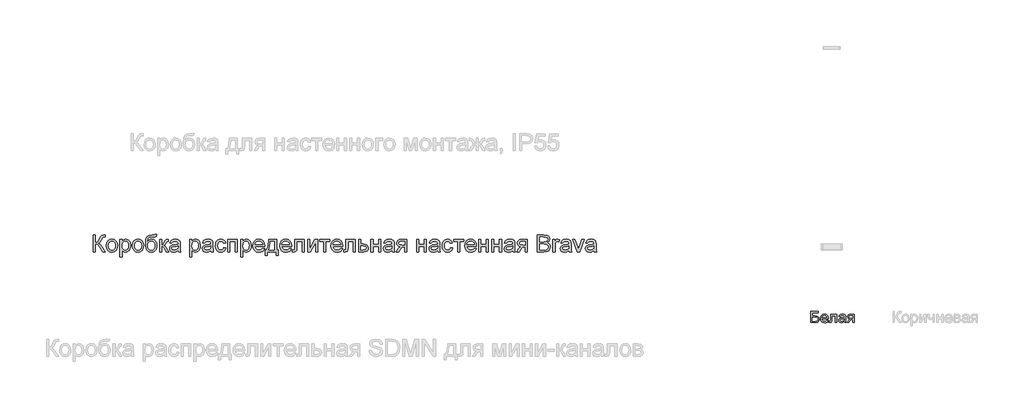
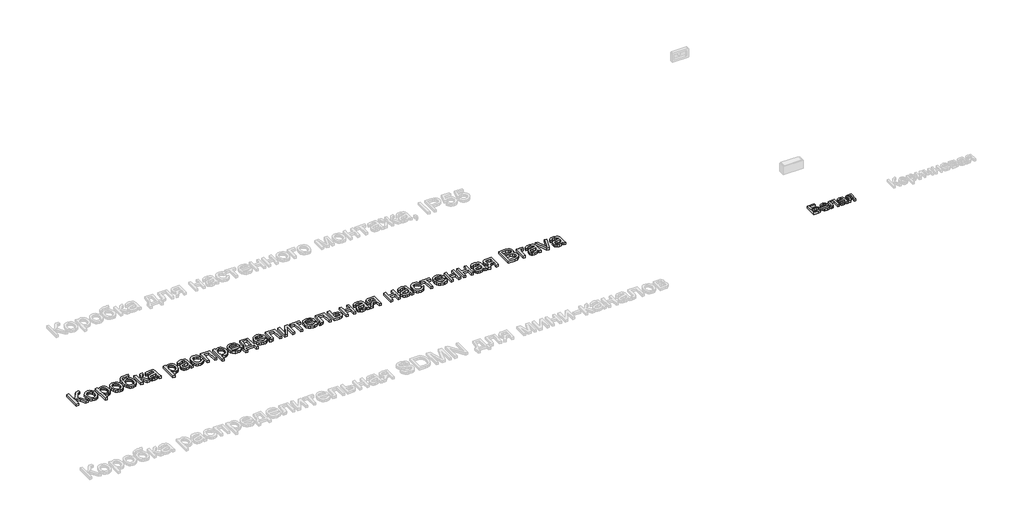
# One storey, part 15 of 48: 2 proxies.
"""IFC4 building model written with IfcOpenShell, lengths in millimetres."""

from ifc_helpers import new_model, si_unit, origin, origin_with_axes, place, context, project, spatial, polyline, outline, extrude, element, save

model = new_model("IFC4")

# Units and contexts
model_context = context("Model", 3, world=origin())
ifc_project = project(units=[si_unit("LENGTHUNIT", "METRE", prefix="MILLI")], contexts=[model_context])

# Site, building, storey
site = spatial("IfcSite", under=ifc_project)
building = spatial("IfcBuilding", under=site)
storey = spatial("IfcBuildingStorey", under=building, Name="Этаж 01", Elevation=0.0)

# Proxies
placement = place(None, origin())
element("IfcBuildingElementProxy", 1, Name="150 мм Arial", ObjectType="150 мм Arial", at=placement, inside=storey, context=model_context, shape_type="SweptSolid", body=[
    extrude(outline(polyline([(38092.7858032, -318.1215641), (38111.6213614, -318.1215641), (38111.6213614, -384.0460176), (38124.3730711, -382.7998174), (38132.6826056, -379.0612166), (38147.3794913, -353.8429058), (38157.7721577, -332.7816616), (38169.5443815, -322.352207), (38186.3749828, -318.1215641), (38198.7358179, -318.3422933), (38198.7358179, -337.1778514), (38194.5787513, -337.0674868), (38190.4216848, -336.9571222), (38175.706405, -341.4820708), (38164.5227923, -360.8694519), (38151.18707, -384.487476), (38138.1824415, -392.2865743), (38152.7229773, -400.8030425), (38167.0611781, -418.5533488), (38198.7358179, -468.8060293), (38176.8836273, -468.8060293), (38150.1018181, -426.3524471), (38131.2478658, -404.1875569), (38122.5428581, -399.6764039), (38111.6213614, -398.1726862), (38111.6213614, -468.8060293), (38092.7858032, -468.8060293), (38092.7858032, -318.1215641)])), origin_with_axes(), (0.0, 0.0, 1.0), 20.0),
    extrude(outline(polyline([(38208.1535969, -413.4765772), (38212.22789, -386.7959355), (38224.4507693, -368.0431508), (38239.5523252, -358.855298), (38257.6337253, -355.7926804), (38277.4211781, -359.5220841), (38293.2263083, -370.7102953), (38303.586785, -388.4743971), (38307.0402772, -411.9314729), (38305.513567, -430.9601691), (38300.9334361, -445.4455226), (38293.4332419, -456.2934429), (38283.1463417, -464.4098395), (38270.9280609, -469.4728154), (38257.6337253, -471.1604741), (38237.6071492, -467.4448659), (38221.8204131, -456.2980415), (38211.570301, -438.1614591), (38208.1535969, -413.4765772)]), holes=[polyline([(38226.9891551, -413.439789), (38229.1688559, -430.486521), (38235.7079584, -442.6312253), (38245.5488017, -449.9014933), (38257.6337253, -452.3249159), (38269.6634665, -449.8876977), (38279.4859158, -442.5760431), (38286.0250183, -430.2703903), (38288.2047191, -412.8511778), (38286.0112227, -396.3010866), (38279.4307335, -384.3219291), (38269.5944887, -377.0516612), (38257.6337253, -374.6282385), (38245.5488017, -377.0424641), (38235.7079584, -384.2851409), (38229.1688559, -396.4022541), (38226.9891551, -413.439789)])]), origin_with_axes(), (0.0, 0.0, 1.0), 20.0),
    extrude(outline(polyline([(38328.2302802, -511.1860352), (38328.2302802, -358.1471252), (38347.0658383, -358.1471252), (38347.0658383, -376.6148013), (38360.0888609, -360.9982106), (38377.6736203, -355.7926804), (38390.4115344, -357.6136963), (38401.5491618, -363.0767439), (38410.617453, -371.8507295), (38417.1473584, -383.6045592), (38422.4080709, -412.6304486), (38420.9227474, -428.7390815), (38416.4667767, -443.1462601), (38409.1827132, -455.1208191), (38399.2131111, -463.9315929), (38387.6018357, -469.3532538), (38375.3927519, -471.1604741), (38359.0036091, -466.3228258), (38347.0658383, -454.0907495), (38347.0658383, -511.1860352), (38328.2302802, -511.1860352)]), holes=[polyline([(38347.0658383, -414.359494), (38349.1029849, -431.2452776), (38355.2144245, -443.0542896), (38364.2321319, -450.0072594), (38374.9880818, -452.3249159), (38385.9187755, -449.9244859), (38395.1664092, -442.7231958), (38401.4709869, -430.4819225), (38403.5725128, -412.9615424), (38401.5215707, -396.1677294), (38395.3687443, -384.1931704), (38386.3648325, -377.0194715), (38375.7606339, -374.6282385), (38365.1150487, -377.1712228), (38355.7662475, -384.8001757), (38349.2409406, -397.2759739), (38347.0658383, -414.359494)])]), origin_with_axes(), (0.0, 0.0, 1.0), 20.0),
    extrude(outline(polyline([(38438.8891843, -413.4765772), (38442.9634774, -386.7959355), (38455.1863567, -368.0431508), (38470.2879126, -358.855298), (38488.3693127, -355.7926804), (38508.1567655, -359.5220841), (38523.9618957, -370.7102953), (38534.3223724, -388.4743971), (38537.7758646, -411.9314729), (38536.2491543, -430.9601691), (38531.6690235, -445.4455226), (38524.1688293, -456.2934429), (38513.881929, -464.4098395), (38501.6636483, -469.4728154), (38488.3693127, -471.1604741), (38468.3427366, -467.4448659), (38452.5560004, -456.2980415), (38442.3058883, -438.1614591), (38438.8891843, -413.4765772)]), holes=[polyline([(38457.7247425, -413.439789), (38459.9044433, -430.486521), (38466.4435458, -442.6312253), (38476.2843891, -449.9014933), (38488.3693127, -452.3249159), (38500.3990539, -449.8876977), (38510.2215032, -442.5760431), (38516.7606056, -430.2703903), (38518.9403065, -412.8511778), (38516.7468101, -396.3010866), (38510.1663209, -384.3219291), (38500.330076, -377.0516612), (38488.3693127, -374.6282385), (38476.2843891, -377.0424641), (38466.4435458, -384.2851409), (38459.9044433, -396.4022541), (38457.7247425, -413.439789)])]), origin_with_axes(), (0.0, 0.0, 1.0), 20.0),
    extrude(outline(polyline([(38636.6625449, -315.7671193), (38653.1436583, -315.7671193), (38648.287616, -330.464005), (38638.6858959, -335.7798999), (38615.6196948, -336.9571222), (38584.5520603, -341.2981298), (38577.4243466, -346.9451184), (38572.6326837, -355.2040692), (38568.6043758, -379.8153747), (38584.9199423, -361.7891569), (38594.8389606, -357.2917995), (38605.9443983, -355.7926804), (38625.5433116, -359.6048576), (38641.4450109, -371.0413891), (38651.98483, -388.9802349), (38655.4981031, -412.2993548), (38653.7552621, -430.2795874), (38648.5267393, -444.7097586), (38631.9904436, -464.2626867), (38620.6964663, -469.4360272), (38605.9443983, -471.1604741), (38588.9436516, -468.9393865), (38576.201139, -462.2761239), (38566.8247467, -452.150172), (38559.9223607, -439.5410166), (38555.6733237, -420.5537071), (38554.256978, -391.2932929), (38557.8300319, -355.1534854), (38568.5491935, -333.1127554), (38586.6811773, -321.8693619), (38612.4926978, -318.1215641), (38633.4619716, -317.6984998), (38636.6625449, -315.7671193)]), holes=[polyline([(38636.6625449, -411.7107437), (38634.6207998, -396.8896978), (38628.4955646, -385.0209049), (38618.6547213, -377.2264051), (38605.4661517, -374.6282385), (38591.7165622, -377.3735579), (38581.5170338, -385.6095161), (38575.1986606, -398.4348022), (38573.0925362, -414.9481052), (38575.4193898, -430.9555705), (38582.3999506, -442.7048017), (38592.792617, -449.9198874), (38605.3557871, -452.3249159), (38617.9833366, -449.5428083), (38627.9805298, -441.1964856), (38634.4920411, -428.2608349), (38636.6625449, -411.7107437)])]), origin_with_axes(), (0.0, 0.0, 1.0), 20.0),
    extrude(outline(polyline([(38679.0425508, -358.1471252), (38697.8781089, -358.1471252), (38697.8781089, -405.2360205), (38710.4964614, -401.8515062), (38720.8339454, -382.1330312), (38729.42399, -365.118489), (38737.0023591, -359.5818649), (38750.7795398, -358.1471252), (38754.3847834, -358.1471252), (38754.3847834, -377.0930479), (38749.3080118, -376.9826833), (38740.110962, -378.9692461), (38733.6362388, -391.3668693), (38726.0394756, -404.776168), (38715.3892919, -411.3428617), (38727.2718803, -418.6729104), (38738.9337396, -434.1147572), (38759.0936729, -468.8060293), (38737.6829408, -468.8060293), (38717.9276777, -434.8505212), (38707.9948638, -420.4847292), (38697.8781089, -417.0082444), (38697.8781089, -468.8060293), (38679.0425508, -468.8060293), (38679.0425508, -358.1471252)])), origin_with_axes(), (0.0, 0.0, 1.0), 20.0),
    extrude(outline(polyline([(38841.4992398, -454.6793607), (38823.2338988, -467.4448659), (38803.0555713, -471.1604741), (38787.3148205, -468.925591), (38775.703545, -462.2209416), (38768.5436417, -452.0398074), (38766.1570072, -439.3754697), (38769.7622508, -424.4762489), (38779.2352122, -413.6605182), (38792.4237817, -407.4801007), (38808.7209541, -404.6474093), (38841.3888752, -398.1726862), (38841.4992398, -393.9788315), (38840.2024558, -385.5727279), (38836.3121037, -380.0728921), (38827.6116945, -375.9894019), (38815.4899828, -374.6282385), (38796.4336954, -378.2518762), (38787.3470101, -391.1093519), (38768.511452, -388.7549072), (38776.6600382, -370.3608074), (38793.0675752, -359.5818649), (38817.9180039, -355.7926804), (38840.7450817, -359.1404065), (38853.6393457, -367.5465101), (38859.415093, -380.3304095), (38860.334798, -396.8115229), (38860.334798, -420.2456059), (38861.2912912, -452.9687094), (38865.0436875, -468.8060293), (38846.2081294, -468.8060293), (38841.4992398, -454.6793607)]), holes=[polyline([(38841.4992398, -417.0082444), (38811.112187, -422.7839917), (38794.9069851, -425.8374123), (38787.5677393, -430.8038192), (38784.9925654, -438.0510945), (38790.6027658, -448.2414258), (38807.0654851, -452.3249159), (38826.1217724, -447.8183615), (38838.4090311, -436.9106603), (38841.3888752, -422.3425333), (38841.4992398, -417.0082444)])]), origin_with_axes(), (0.0, 0.0, 1.0), 20.0),
    extrude(outline(polyline([(38945.0948097, -511.1860352), (38945.0948097, -358.1471252), (38963.9303678, -358.1471252), (38963.9303678, -376.6148013), (38976.9533905, -360.9982106), (38994.5381498, -355.7926804), (39007.2760639, -357.6136963), (39018.4136913, -363.0767439), (39027.4819825, -371.8507295), (39034.0118879, -383.6045592), (39039.2726004, -412.6304486), (39037.7872769, -428.7390815), (39033.3313062, -443.1462601), (39026.0472427, -455.1208191), (39016.0776406, -463.9315929), (39004.4663652, -469.3532538), (38992.2572815, -471.1604741), (38975.8681386, -466.3228258), (38963.9303678, -454.0907495), (38963.9303678, -511.1860352), (38945.0948097, -511.1860352)]), holes=[polyline([(38963.9303678, -414.359494), (38965.9675144, -431.2452776), (38972.078954, -443.0542896), (38981.0966614, -450.0072594), (38991.8526113, -452.3249159), (39002.783305, -449.9244859), (39012.0309387, -442.7231958), (39018.3355164, -430.4819225), (39020.4370423, -412.9615424), (39018.3861002, -396.1677294), (39012.2332738, -384.1931704), (39003.229362, -377.0194715), (38992.6251635, -374.6282385), (38981.9795782, -377.1712228), (38972.630777, -384.8001757), (38966.1054701, -397.2759739), (38963.9303678, -414.359494)])]), origin_with_axes(), (0.0, 0.0, 1.0), 20.0),
    extrude(outline(polyline([(39131.0959464, -454.6793607), (39112.8306054, -467.4448659), (39092.6522779, -471.1604741), (39076.9115271, -468.925591), (39065.3002516, -462.2209416), (39058.1403483, -452.0398074), (39055.7537138, -439.3754697), (39059.3589574, -424.4762489), (39068.8319188, -413.6605182), (39082.0204883, -407.4801007), (39098.3176607, -404.6474093), (39130.9855818, -398.1726862), (39131.0959464, -393.9788315), (39129.7991624, -385.5727279), (39125.9088103, -380.0728921), (39117.2084011, -375.9894019), (39105.0866894, -374.6282385), (39086.030402, -378.2518762), (39076.9437167, -391.1093519), (39058.1081586, -388.7549072), (39066.2567448, -370.3608074), (39082.6642818, -359.5818649), (39107.5147105, -355.7926804), (39130.3417883, -359.1404065), (39143.2360523, -367.5465101), (39149.0117996, -380.3304095), (39149.9315046, -396.8115229), (39149.9315046, -420.2456059), (39150.8879978, -452.9687094), (39154.6403941, -468.8060293), (39135.804836, -468.8060293), (39131.0959464, -454.6793607)]), holes=[polyline([(39131.0959464, -417.0082444), (39100.7088936, -422.7839917), (39084.5036917, -425.8374123), (39077.1644459, -430.8038192), (39074.589272, -438.0510945), (39080.1994724, -448.2414258), (39096.6621917, -452.3249159), (39115.718479, -447.8183615), (39128.0057377, -436.9106603), (39130.9855818, -422.3425333), (39131.0959464, -417.0082444)])]), origin_with_axes(), (0.0, 0.0, 1.0), 20.0),
    extrude(outline(polyline([(39246.4637401, -428.7804682), (39265.2992983, -431.134913), (39260.0477828, -447.8873394), (39250.1793483, -460.5470785), (39236.6228968, -468.5071252), (39220.3073303, -471.1604741), (39200.2715571, -467.4586615), (39184.6043826, -456.3532238), (39174.4922263, -438.3316045), (39171.1215075, -413.8812474), (39172.5608458, -397.119624), (39176.8788607, -382.5928837), (39184.1445301, -370.8620466), (39194.4268319, -362.4881327), (39206.7278861, -357.4665435), (39220.0498129, -355.7926804), (39235.9653077, -358.0919429), (39248.6894262, -364.9897303), (39257.8174982, -376.1181606), (39262.9448535, -391.1093519), (39244.1092954, -393.4637967), (39235.372098, -379.3555222), (39220.1969657, -374.6282385), (39208.0246702, -376.9550922), (39198.3631693, -383.935653), (39192.0585916, -395.9470002), (39189.9570657, -413.3662126), (39192.0126063, -431.0199499), (39198.1792283, -443.0726837), (39207.6659852, -450.0118579), (39219.6819309, -452.3249159), (39229.4354023, -450.8809791), (39237.4322371, -446.5491686), (39243.2493712, -439.2191198), (39246.4637401, -428.7804682)])), origin_with_axes(), (0.0, 0.0, 1.0), 20.0),
    extrude(outline(polyline([(39281.7804117, -358.1471252), (39366.5404234, -358.1471252), (39366.5404234, -468.8060293), (39347.7048652, -468.8060293), (39347.7048652, -376.9826833), (39300.6159698, -376.9826833), (39300.6159698, -468.8060293), (39281.7804117, -468.8060293), (39281.7804117, -358.1471252)])), origin_with_axes(), (0.0, 0.0, 1.0), 20.0),
    extrude(outline(polyline([(39394.7937606, -511.1860352), (39394.7937606, -358.1471252), (39413.6293187, -358.1471252), (39413.6293187, -376.6148013), (39426.6523414, -360.9982106), (39444.2371007, -355.7926804), (39456.9750148, -357.6136963), (39468.1126422, -363.0767439), (39477.1809334, -371.8507295), (39483.7108388, -383.6045592), (39488.9715513, -412.6304486), (39487.4862278, -428.7390815), (39483.0302571, -443.1462601), (39475.7461936, -455.1208191), (39465.7765915, -463.9315929), (39454.1653161, -469.3532538), (39441.9562324, -471.1604741), (39425.5670895, -466.3228258), (39413.6293187, -454.0907495), (39413.6293187, -511.1860352), (39394.7937606, -511.1860352)]), holes=[polyline([(39413.6293187, -414.359494), (39415.6664653, -431.2452776), (39421.7779049, -443.0542896), (39430.7956123, -450.0072594), (39441.5515622, -452.3249159), (39452.4822559, -449.9244859), (39461.7298896, -442.7231958), (39468.0344673, -430.4819225), (39470.1359932, -412.9615424), (39468.0850511, -396.1677294), (39461.9322247, -384.1931704), (39452.9283129, -377.0194715), (39442.3241144, -374.6282385), (39431.6785291, -377.1712228), (39422.3297279, -384.8001757), (39415.804421, -397.2759739), (39413.6293187, -414.359494)])]), origin_with_axes(), (0.0, 0.0, 1.0), 20.0),
    extrude(outline(polyline([(39587.6375025, -435.8438025), (39606.1051786, -438.1982473), (39599.451113, -452.1133838), (39588.8331189, -462.5152472), (39574.4903196, -468.9991674), (39556.6618385, -471.1604741), (39534.5613276, -467.4310703), (39517.5559824, -456.2428592), (39506.7126606, -438.3224075), (39503.09822, -414.3962822), (39506.7494488, -389.6654151), (39517.7031352, -371.1701478), (39534.4785541, -359.6370472), (39555.5949807, -355.7926804), (39576.0538181, -359.6278502), (39592.4015743, -371.1333596), (39603.1207359, -389.5918387), (39606.6937898, -414.2859176), (39606.5834252, -419.3626892), (39521.9337781, -419.3626892), (39525.1941323, -433.4617666), (39532.7679029, -443.8268418), (39543.6985967, -450.2003974), (39557.0297205, -452.3249159), (39575.4973966, -448.3885786), (39587.6375025, -435.8438025)]), holes=[polyline([(39521.9337781, -400.527131), (39587.8582316, -400.527131), (39585.3106488, -390.575923), (39580.3166507, -383.4574064), (39569.3353732, -376.8355305), (39555.5214043, -374.6282385), (39542.8248769, -376.3894736), (39532.3264445, -381.6731787), (39525.0285854, -389.9091369), (39521.9337781, -400.527131)])]), origin_with_axes(), (0.0, 0.0, 1.0), 20.0),
    extrude(outline(polyline([(39642.0104613, -358.1471252), (39712.6438044, -358.1471252), (39712.6438044, -449.9704712), (39726.770473, -449.9704712), (39726.770473, -499.4138113), (39707.9349149, -499.4138113), (39707.9349149, -468.8060293), (39630.2382375, -468.8060293), (39630.2382375, -499.4138113), (39611.4026793, -499.4138113), (39611.4026793, -449.9704712), (39623.1749032, -449.9704712), (39631.7327581, -434.5056318), (39637.7246361, -414.0467943), (39642.0104613, -358.1471252)]), holes=[polyline([(39658.4915747, -376.9826833), (39654.0769908, -419.896118), (39644.3649061, -449.9704712), (39693.8082463, -449.9704712), (39693.8082463, -376.9826833), (39658.4915747, -376.9826833)])]), origin_with_axes(), (0.0, 0.0, 1.0), 20.0),
    extrude(outline(polyline([(39825.4364241, -435.8438025), (39843.9041003, -438.1982473), (39837.2500347, -452.1133838), (39826.6320406, -462.5152472), (39812.2892413, -468.9991674), (39794.4607601, -471.1604741), (39772.3602493, -467.4310703), (39755.3549041, -456.2428592), (39744.5115822, -438.3224075), (39740.8971416, -414.3962822), (39744.5483704, -389.6654151), (39755.5020569, -371.1701478), (39772.2774758, -359.6370472), (39793.3939024, -355.7926804), (39813.8527398, -359.6278502), (39830.200496, -371.1333596), (39840.9196576, -389.5918387), (39844.4927115, -414.2859176), (39844.3823469, -419.3626892), (39759.7326998, -419.3626892), (39762.993054, -433.4617666), (39770.5668246, -443.8268418), (39781.4975183, -450.2003974), (39794.8286421, -452.3249159), (39813.2963183, -448.3885786), (39825.4364241, -435.8438025)]), holes=[polyline([(39759.7326998, -400.527131), (39825.6571533, -400.527131), (39823.1095705, -390.575923), (39818.1155724, -383.4574064), (39807.1342949, -376.8355305), (39793.320326, -374.6282385), (39780.6237986, -376.3894736), (39770.1253662, -381.6731787), (39762.8275071, -389.9091369), (39759.7326998, -400.527131)])]), origin_with_axes(), (0.0, 0.0, 1.0), 20.0),
    extrude(outline(polyline([(39872.7460487, -358.1471252), (39957.5060604, -358.1471252), (39957.5060604, -468.6956647), (39938.6705022, -468.6956647), (39938.6705022, -376.9826833), (39891.5816069, -376.9826833), (39891.5816069, -429.7737496), (39890.312414, -454.1275377), (39883.3410502, -464.4098395), (39866.8599368, -468.8060293), (39851.5560458, -467.8495361), (39851.5560458, -449.9704712), (39859.9805435, -449.9704712), (39868.4970117, -448.8116429), (39871.8999201, -445.1328229), (39872.7460487, -428.7068918), (39872.7460487, -358.1471252)])), origin_with_axes(), (0.0, 0.0, 1.0), 20.0),
    extrude(outline(polyline([(39985.7593976, -358.1471252), (40004.5949558, -358.1471252), (40004.5949558, -442.5392549), (40050.8745108, -358.1471252), (40075.2282989, -358.1471252), (40075.2282989, -468.8060293), (40056.3927407, -468.8060293), (40056.3927407, -384.9289344), (40010.4074913, -468.8060293), (39985.7593976, -468.8060293), (39985.7593976, -358.1471252)])), origin_with_axes(), (0.0, 0.0, 1.0), 20.0),
    extrude(outline(polyline([(40094.063857, -358.1471252), (40183.5327582, -358.1471252), (40183.5327582, -376.9826833), (40148.2160867, -376.9826833), (40148.2160867, -468.8060293), (40129.3805285, -468.8060293), (40129.3805285, -376.9826833), (40094.063857, -376.9826833), (40094.063857, -358.1471252)])), origin_with_axes(), (0.0, 0.0, 1.0), 20.0),
    extrude(outline(polyline([(40277.4898198, -435.8438025), (40295.957496, -438.1982473), (40289.3034304, -452.1133838), (40278.6854363, -462.5152472), (40264.342637, -468.9991674), (40246.5141558, -471.1604741), (40224.413645, -467.4310703), (40207.4082997, -456.2428592), (40196.5649779, -438.3224075), (40192.9505373, -414.3962822), (40196.6017661, -389.6654151), (40207.5554525, -371.1701478), (40224.3308715, -359.6370472), (40245.447298, -355.7926804), (40265.9061355, -359.6278502), (40282.2538916, -371.1333596), (40292.9730533, -389.5918387), (40296.5461072, -414.2859176), (40296.4357426, -419.3626892), (40211.7860955, -419.3626892), (40215.0464497, -433.4617666), (40222.6202202, -443.8268418), (40233.550914, -450.2003974), (40246.8820378, -452.3249159), (40265.349714, -448.3885786), (40277.4898198, -435.8438025)]), holes=[polyline([(40211.7860955, -400.527131), (40277.710549, -400.527131), (40275.1629662, -390.575923), (40270.1689681, -383.4574064), (40259.1876905, -376.8355305), (40245.3737216, -374.6282385), (40232.6771943, -376.3894736), (40222.1787618, -381.6731787), (40214.8809028, -389.9091369), (40211.7860955, -400.527131)])]), origin_with_axes(), (0.0, 0.0, 1.0), 20.0),
    extrude(outline(polyline([(40324.7994444, -358.1471252), (40409.5594561, -358.1471252), (40409.5594561, -468.6956647), (40390.7238979, -468.6956647), (40390.7238979, -376.9826833), (40343.6350025, -376.9826833), (40343.6350025, -429.7737496), (40342.3658097, -454.1275377), (40335.3944458, -464.4098395), (40318.9133325, -468.8060293), (40303.6094415, -467.8495361), (40303.6094415, -449.9704712), (40312.0339392, -449.9704712), (40320.5504073, -448.8116429), (40323.9533158, -445.1328229), (40324.7994444, -428.7068918), (40324.7994444, -358.1471252)])), origin_with_axes(), (0.0, 0.0, 1.0), 20.0),
    extrude(outline(polyline([(40437.8127933, -358.1471252), (40456.6483515, -358.1471252), (40456.6483515, -398.1726862), (40478.3533892, -398.1726862), (40497.1705532, -400.5317295), (40511.0948867, -407.6088594), (40519.7033254, -418.8338588), (40522.572805, -433.6365106), (40520.1309883, -447.1147872), (40512.805538, -458.4869393), (40500.1090107, -466.2262568), (40481.5539625, -468.8060293), (40437.8127933, -468.8060293), (40437.8127933, -358.1471252)]), holes=[polyline([(40456.6483515, -449.9704712), (40474.2331108, -449.9704712), (40496.949824, -446.0157397), (40502.0403911, -440.9527637), (40503.7372468, -433.6732988), (40498.7156576, -422.0850159), (40490.6452463, -418.2774373), (40476.477191, -417.0082444), (40456.6483515, -417.0082444), (40456.6483515, -449.9704712)])]), origin_with_axes(), (0.0, 0.0, 1.0), 20.0),
    extrude(outline(polyline([(40546.1172527, -358.1471252), (40564.9528108, -358.1471252), (40564.9528108, -400.527131), (40614.396151, -400.527131), (40614.396151, -358.1471252), (40633.2317091, -358.1471252), (40633.2317091, -468.8060293), (40614.396151, -468.8060293), (40614.396151, -419.3626892), (40564.9528108, -419.3626892), (40564.9528108, -468.8060293), (40546.1172527, -468.8060293), (40546.1172527, -358.1471252)])), origin_with_axes(), (0.0, 0.0, 1.0), 20.0),
    extrude(outline(polyline([(40732.1183894, -454.6793607), (40713.8530484, -467.4448659), (40693.674721, -471.1604741), (40677.9339701, -468.925591), (40666.3226946, -462.2209416), (40659.1627913, -452.0398074), (40656.7761568, -439.3754697), (40660.3814004, -424.4762489), (40669.8543618, -413.6605182), (40683.0429313, -407.4801007), (40699.3401037, -404.6474093), (40732.0080248, -398.1726862), (40732.1183894, -393.9788315), (40730.8216054, -385.5727279), (40726.9312533, -380.0728921), (40718.2308441, -375.9894019), (40706.1091324, -374.6282385), (40687.052845, -378.2518762), (40677.9661598, -391.1093519), (40659.1306016, -388.7549072), (40667.2791878, -370.3608074), (40683.6867248, -359.5818649), (40708.5371536, -355.7926804), (40731.3642314, -359.1404065), (40744.2584953, -367.5465101), (40750.0342426, -380.3304095), (40750.9539476, -396.8115229), (40750.9539476, -420.2456059), (40751.9104408, -452.9687094), (40755.6628371, -468.8060293), (40736.827279, -468.8060293), (40732.1183894, -454.6793607)]), holes=[polyline([(40732.1183894, -417.0082444), (40701.7313366, -422.7839917), (40685.5261348, -425.8374123), (40678.186889, -430.8038192), (40675.611715, -438.0510945), (40681.2219154, -448.2414258), (40697.6846347, -452.3249159), (40716.740922, -447.8183615), (40729.0281807, -436.9106603), (40732.0080248, -422.3425333), (40732.1183894, -417.0082444)])]), origin_with_axes(), (0.0, 0.0, 1.0), 20.0),
    extrude(outline(polyline([(40861.6128517, -358.1471252), (40861.6128517, -468.8060293), (40842.7772936, -468.8060293), (40842.7772936, -426.4260235), (40832.5133859, -426.4260235), (40818.5338701, -428.8172564), (40805.4004829, -444.8936996), (40790.3908975, -468.8060293), (40768.6122834, -468.8060293), (40787.5214179, -438.5661293), (40795.8723392, -427.7136104), (40803.5610729, -422.8943563), (40790.6852031, -418.9488219), (40781.635306, -411.4532263), (40776.282623, -401.4836242), (40774.4983953, -390.1160705), (40776.9356135, -377.2218066), (40784.2472682, -367.0130812), (40796.1758419, -360.3636142), (40812.4638172, -358.1471252), (40861.6128517, -358.1471252)]), holes=[polyline([(40842.7772936, -376.9826833), (40817.9452589, -376.9826833), (40805.1199729, -378.0725337), (40797.8405079, -381.342085), (40793.3339534, -391.5508103), (40794.9940209, -398.7291078), (40799.9742235, -403.7093103), (40823.500277, -407.5904653), (40842.7772936, -407.5904653), (40842.7772936, -376.9826833)])]), origin_with_axes(), (0.0, 0.0, 1.0), 20.0),
    extrude(outline(polyline([(40948.7273082, -358.1471252), (40967.5628664, -358.1471252), (40967.5628664, -400.527131), (41017.0062065, -400.527131), (41017.0062065, -358.1471252), (41035.8417647, -358.1471252), (41035.8417647, -468.8060293), (41017.0062065, -468.8060293), (41017.0062065, -419.3626892), (40967.5628664, -419.3626892), (40967.5628664, -468.8060293), (40948.7273082, -468.8060293), (40948.7273082, -358.1471252)])), origin_with_axes(), (0.0, 0.0, 1.0), 20.0),
    extrude(outline(polyline([(41134.728445, -454.6793607), (41116.4631039, -467.4448659), (41096.2847765, -471.1604741), (41080.5440256, -468.925591), (41068.9327501, -462.2209416), (41061.7728468, -452.0398074), (41059.3862124, -439.3754697), (41062.9914559, -424.4762489), (41072.4644173, -413.6605182), (41085.6529868, -407.4801007), (41101.9501592, -404.6474093), (41134.6180804, -398.1726862), (41134.728445, -393.9788315), (41133.4316609, -385.5727279), (41129.5413088, -380.0728921), (41120.8408996, -375.9894019), (41108.7191879, -374.6282385), (41089.6629006, -378.2518762), (41080.5762153, -391.1093519), (41061.7406571, -388.7549072), (41069.8892433, -370.3608074), (41086.2967803, -359.5818649), (41111.1472091, -355.7926804), (41133.9742869, -359.1404065), (41146.8685508, -367.5465101), (41152.6442981, -380.3304095), (41153.5640031, -396.8115229), (41153.5640031, -420.2456059), (41154.5204963, -452.9687094), (41158.2728927, -468.8060293), (41139.4373345, -468.8060293), (41134.728445, -454.6793607)]), holes=[polyline([(41134.728445, -417.0082444), (41104.3413922, -422.7839917), (41088.1361903, -425.8374123), (41080.7969445, -430.8038192), (41078.2217705, -438.0510945), (41083.8319709, -448.2414258), (41100.2946902, -452.3249159), (41119.3509776, -447.8183615), (41131.6382362, -436.9106603), (41134.6180804, -422.3425333), (41134.728445, -417.0082444)])]), origin_with_axes(), (0.0, 0.0, 1.0), 20.0),
    extrude(outline(polyline([(41250.0962387, -428.7804682), (41268.9317968, -431.134913), (41263.6802813, -447.8873394), (41253.8118468, -460.5470785), (41240.2553953, -468.5071252), (41223.9398288, -471.1604741), (41203.9040556, -467.4586615), (41188.2368812, -456.3532238), (41178.1247248, -438.3316045), (41174.754006, -413.8812474), (41176.1933443, -397.119624), (41180.5113593, -382.5928837), (41187.7770287, -370.8620466), (41198.0593304, -362.4881327), (41210.3603847, -357.4665435), (41223.6823114, -355.7926804), (41239.5978062, -358.0919429), (41252.3219247, -364.9897303), (41261.4499967, -376.1181606), (41266.577352, -391.1093519), (41247.7417939, -393.4637967), (41239.0045965, -379.3555222), (41223.8294642, -374.6282385), (41211.6571687, -376.9550922), (41201.9956678, -383.935653), (41195.6910901, -395.9470002), (41193.5895642, -413.3662126), (41195.6451048, -431.0199499), (41201.8117268, -443.0726837), (41211.2984837, -450.0118579), (41223.3144294, -452.3249159), (41233.0679008, -450.8809791), (41241.0647357, -446.5491686), (41246.8818697, -439.2191198), (41250.0962387, -428.7804682)])), origin_with_axes(), (0.0, 0.0, 1.0), 20.0),
    extrude(outline(polyline([(41275.9951311, -358.1471252), (41365.4640323, -358.1471252), (41365.4640323, -376.9826833), (41330.1473608, -376.9826833), (41330.1473608, -468.8060293), (41311.3118027, -468.8060293), (41311.3118027, -376.9826833), (41275.9951311, -376.9826833), (41275.9951311, -358.1471252)])), origin_with_axes(), (0.0, 0.0, 1.0), 20.0),
    extrude(outline(polyline([(41459.4210939, -435.8438025), (41477.8887701, -438.1982473), (41471.2347045, -452.1133838), (41460.6167104, -462.5152472), (41446.2739111, -468.9991674), (41428.4454299, -471.1604741), (41406.3449191, -467.4310703), (41389.3395738, -456.2428592), (41378.496252, -438.3224075), (41374.8818114, -414.3962822), (41378.5330402, -389.6654151), (41389.4867266, -371.1701478), (41406.2621456, -359.6370472), (41427.3785721, -355.7926804), (41447.8374096, -359.6278502), (41464.1851657, -371.1333596), (41474.9043274, -389.5918387), (41478.4773813, -414.2859176), (41478.3670167, -419.3626892), (41393.7173696, -419.3626892), (41396.9777238, -433.4617666), (41404.5514943, -443.8268418), (41415.4821881, -450.2003974), (41428.8133119, -452.3249159), (41447.2809881, -448.3885786), (41459.4210939, -435.8438025)]), holes=[polyline([(41393.7173696, -400.527131), (41459.6418231, -400.527131), (41457.0942403, -390.575923), (41452.1002422, -383.4574064), (41441.1189647, -376.8355305), (41427.3049957, -374.6282385), (41414.6084684, -376.3894736), (41404.1100359, -381.6731787), (41396.8121769, -389.9091369), (41393.7173696, -400.527131)])]), origin_with_axes(), (0.0, 0.0, 1.0), 20.0),
    extrude(outline(polyline([(41497.3129394, -358.1471252), (41516.1484976, -358.1471252), (41516.1484976, -400.527131), (41565.5918377, -400.527131), (41565.5918377, -358.1471252), (41584.4273959, -358.1471252), (41584.4273959, -468.8060293), (41565.5918377, -468.8060293), (41565.5918377, -419.3626892), (41516.1484976, -419.3626892), (41516.1484976, -468.8060293), (41497.3129394, -468.8060293), (41497.3129394, -358.1471252)])), origin_with_axes(), (0.0, 0.0, 1.0), 20.0),
    extrude(outline(polyline([(41612.6807331, -358.1471252), (41631.5162913, -358.1471252), (41631.5162913, -400.527131), (41680.9596314, -400.527131), (41680.9596314, -358.1471252), (41699.7951896, -358.1471252), (41699.7951896, -468.8060293), (41680.9596314, -468.8060293), (41680.9596314, -419.3626892), (41631.5162913, -419.3626892), (41631.5162913, -468.8060293), (41612.6807331, -468.8060293), (41612.6807331, -358.1471252)])), origin_with_axes(), (0.0, 0.0, 1.0), 20.0),
    extrude(outline(polyline([(41798.6818699, -454.6793607), (41780.4165288, -467.4448659), (41760.2382014, -471.1604741), (41744.4974505, -468.925591), (41732.886175, -462.2209416), (41725.7262717, -452.0398074), (41723.3396373, -439.3754697), (41726.9448808, -424.4762489), (41736.4178422, -413.6605182), (41749.6064117, -407.4801007), (41765.9035841, -404.6474093), (41798.5715053, -398.1726862), (41798.6818699, -393.9788315), (41797.3850858, -385.5727279), (41793.4947337, -380.0728921), (41784.7943245, -375.9894019), (41772.6726128, -374.6282385), (41753.6163255, -378.2518762), (41744.5296402, -391.1093519), (41725.694082, -388.7549072), (41733.8426682, -370.3608074), (41750.2502052, -359.5818649), (41775.100634, -355.7926804), (41797.9277118, -359.1404065), (41810.8219757, -367.5465101), (41816.597723, -380.3304095), (41817.517428, -396.8115229), (41817.517428, -420.2456059), (41818.4739212, -452.9687094), (41822.2263176, -468.8060293), (41803.3907594, -468.8060293), (41798.6818699, -454.6793607)]), holes=[polyline([(41798.6818699, -417.0082444), (41768.2948171, -422.7839917), (41752.0896152, -425.8374123), (41744.7503694, -430.8038192), (41742.1751954, -438.0510945), (41747.7853958, -448.2414258), (41764.2481151, -452.3249159), (41783.3044025, -447.8183615), (41795.5916611, -436.9106603), (41798.5715053, -422.3425333), (41798.6818699, -417.0082444)])]), origin_with_axes(), (0.0, 0.0, 1.0), 20.0),
    extrude(outline(polyline([(41928.1763322, -358.1471252), (41928.1763322, -468.8060293), (41909.340774, -468.8060293), (41909.340774, -426.4260235), (41899.0768663, -426.4260235), (41885.0973505, -428.8172564), (41871.9639633, -444.8936996), (41856.9543779, -468.8060293), (41835.1757638, -468.8060293), (41854.0848983, -438.5661293), (41862.4358196, -427.7136104), (41870.1245533, -422.8943563), (41857.2486835, -418.9488219), (41848.1987864, -411.4532263), (41842.8461034, -401.4836242), (41841.0618757, -390.1160705), (41843.4990939, -377.2218066), (41850.8107486, -367.0130812), (41862.7393223, -360.3636142), (41879.0272976, -358.1471252), (41928.1763322, -358.1471252)]), holes=[polyline([(41909.340774, -376.9826833), (41884.5087393, -376.9826833), (41871.6834533, -378.0725337), (41864.4039883, -381.342085), (41859.8974339, -391.5508103), (41861.5575014, -398.7291078), (41866.5377039, -403.7093103), (41890.0637575, -407.5904653), (41909.340774, -407.5904653), (41909.340774, -376.9826833)])]), origin_with_axes(), (0.0, 0.0, 1.0), 20.0),
    extrude(outline(polyline([(42017.6452334, -468.8060293), (42017.6452334, -318.1215641), (42075.1451892, -318.1215641), (42103.306556, -322.5545421), (42112.7703203, -328.1785381), (42119.9348222, -336.18457), (42125.9496928, -355.4615866), (42120.8913153, -373.0647401), (42105.6058184, -386.4004624), (42116.2789948, -391.9738746), (42124.1654651, -400.4535546), (42129.035303, -411.2784823), (42130.6585823, -423.8876377), (42126.2256043, -444.1395415), (42115.2443267, -458.5605157), (42098.8551838, -466.2124612), (42074.7037308, -468.8060293), (42017.6452334, -468.8060293)]), holes=[polyline([(42036.4807915, -379.3371281), (42070.8777581, -379.3371281), (42090.964115, -377.7184473), (42103.0490386, -370.7470835), (42107.1141346, -358.478219), (42103.3249501, -346.1909603), (42092.4724312, -338.9252909), (42068.2657959, -336.9571222), (42036.4807915, -336.9571222), (42036.4807915, -379.3371281)]), polyline([(42036.4807915, -449.9704712), (42075.108401, -449.9704712), (42089.0879169, -449.2347072), (42100.915323, -445.1328229), (42108.7512095, -436.7635075), (42111.8230242, -424.0715787), (42108.2177806, -409.4298753), (42096.5375273, -400.6926779), (42073.2689911, -398.1726862), (42036.4807915, -398.1726862), (42036.4807915, -449.9704712)])]), origin_with_axes(), (0.0, 0.0, 1.0), 20.0),
    extrude(outline(polyline([(42154.20303, -468.8060293), (42154.20303, -358.1471252), (42170.6841434, -358.1471252), (42170.6841434, -374.5178739), (42182.3827908, -359.4347121), (42194.1550147, -355.7926804), (42213.0641492, -361.6052159), (42206.7733671, -378.4909995), (42193.5296153, -374.6282385), (42182.8794315, -378.3438467), (42176.0920087, -388.6445426), (42173.0385882, -410.6438859), (42173.0385882, -468.8060293), (42154.20303, -468.8060293)])), origin_with_axes(), (0.0, 0.0, 1.0), 20.0),
    extrude(outline(polyline([(42295.4697161, -454.6793607), (42277.2043751, -467.4448659), (42257.0260477, -471.1604741), (42241.2852968, -468.925591), (42229.6740213, -462.2209416), (42222.514118, -452.0398074), (42220.1274835, -439.3754697), (42223.7327271, -424.4762489), (42233.2056885, -413.6605182), (42246.394258, -407.4801007), (42262.6914304, -404.6474093), (42295.3593516, -398.1726862), (42295.4697161, -393.9788315), (42294.1729321, -385.5727279), (42290.28258, -380.0728921), (42281.5821708, -375.9894019), (42269.4604591, -374.6282385), (42250.4041717, -378.2518762), (42241.3174865, -391.1093519), (42222.4819283, -388.7549072), (42230.6305145, -370.3608074), (42247.0380515, -359.5818649), (42271.8884803, -355.7926804), (42294.7155581, -359.1404065), (42307.609822, -367.5465101), (42313.3855693, -380.3304095), (42314.3052743, -396.8115229), (42314.3052743, -420.2456059), (42315.2617675, -452.9687094), (42319.0141638, -468.8060293), (42300.1786057, -468.8060293), (42295.4697161, -454.6793607)]), holes=[polyline([(42295.4697161, -417.0082444), (42265.0826633, -422.7839917), (42248.8774615, -425.8374123), (42241.5382157, -430.8038192), (42238.9630417, -438.0510945), (42244.5732421, -448.2414258), (42261.0359614, -452.3249159), (42280.0922488, -447.8183615), (42292.3795074, -436.9106603), (42295.3593516, -422.3425333), (42295.4697161, -417.0082444)])]), origin_with_axes(), (0.0, 0.0, 1.0), 20.0),
    extrude(outline(polyline([(42367.353858, -468.8060293), (42328.4319429, -358.1471252), (42348.3711471, -358.1471252), (42371.9523829, -424.4394607), (42379.0525055, -446.7331096), (42386.0054752, -425.6902595), (42409.7338639, -358.1471252), (42429.673068, -358.1471252), (42391.2293995, -468.8060293), (42367.353858, -468.8060293)])), origin_with_axes(), (0.0, 0.0, 1.0), 20.0),
    extrude(outline(polyline([(42516.7875244, -454.6793607), (42498.5221834, -467.4448659), (42478.343856, -471.1604741), (42462.6031051, -468.925591), (42450.9918296, -462.2209416), (42443.8319263, -452.0398074), (42441.4452918, -439.3754697), (42445.0505354, -424.4762489), (42454.5234968, -413.6605182), (42467.7120663, -407.4801007), (42484.0092387, -404.6474093), (42516.6771598, -398.1726862), (42516.7875244, -393.9788315), (42515.4907404, -385.5727279), (42511.6003883, -380.0728921), (42502.8999791, -375.9894019), (42490.7782674, -374.6282385), (42471.72198, -378.2518762), (42462.6352948, -391.1093519), (42443.7997366, -388.7549072), (42451.9483228, -370.3608074), (42468.3558598, -359.5818649), (42493.2062886, -355.7926804), (42516.0333664, -359.1404065), (42528.9276303, -367.5465101), (42534.7033776, -380.3304095), (42535.6230826, -396.8115229), (42535.6230826, -420.2456059), (42536.5795758, -452.9687094), (42540.3319721, -468.8060293), (42521.496414, -468.8060293), (42516.7875244, -454.6793607)]), holes=[polyline([(42516.7875244, -417.0082444), (42486.4004716, -422.7839917), (42470.1952698, -425.8374123), (42462.856024, -430.8038192), (42460.28085, -438.0510945), (42465.8910504, -448.2414258), (42482.3537697, -452.3249159), (42501.410057, -447.8183615), (42513.6973157, -436.9106603), (42516.6771598, -422.3425333), (42516.7875244, -417.0082444)])]), origin_with_axes(), (0.0, 0.0, 1.0), 20.0),
])
element("IfcBuildingElementProxy", 2, Name="100 мм Arial", ObjectType="100 мм Arial", at=placement, inside=storey, context=model_context, shape_type="SweptSolid", body=[
    extrude(outline(polyline([(44434.2436065, -993.3009155), (44497.0288003, -993.3009155), (44497.0288003, -1005.8579543), (44446.8006452, -1005.8579543), (44446.8006452, -1035.6809213), (44470.3205675, -1035.6809213), (44491.0445865, -1038.2315698), (44503.3808961, -1047.8700781), (44508.0162092, -1064.3511915), (44504.717534, -1078.6618011), (44494.8705593, -1089.5388454), (44472.5769104, -1093.7572256), (44434.2436065, -1093.7572256), (44434.2436065, -993.3009155)]), holes=[polyline([(44446.8006452, -1081.2001869), (44473.7050818, -1081.2001869), (44490.0145169, -1077.0553831), (44494.0980071, -1071.8743783), (44495.4591705, -1064.6209716), (44492.3444362, -1054.7862596), (44483.6746839, -1049.5378098), (44464.7532866, -1048.2379601), (44446.8006452, -1048.2379601), (44446.8006452, -1081.2001869)])]), origin_with_axes(), (0.0, 0.0, 1.0), 20.0),
    extrude(outline(polyline([(44575.3631398, -1071.7824078), (44587.6749239, -1073.3520376), (44583.2388802, -1082.6287953), (44576.1602175, -1089.5633709), (44566.5983513, -1093.8859843), (44554.7126972, -1095.3268555), (44539.9790233, -1092.8405863), (44528.6421264, -1085.3817789), (44521.4132452, -1073.4348111), (44519.0036182, -1057.4840609), (44521.4377707, -1040.9968162), (44528.7402283, -1028.666638), (44539.923841, -1020.9779043), (44554.0014586, -1018.414993), (44567.6406836, -1020.9717729), (44578.5391877, -1028.6421125), (44585.6852955, -1040.9477652), (44588.0673314, -1057.4104845), (44587.993755, -1060.7949989), (44531.5606569, -1060.7949989), (44533.7342264, -1070.1943838), (44538.7834068, -1077.104434), (44546.070536, -1081.353471), (44554.9579518, -1082.7698167), (44567.2697359, -1080.1455918), (44575.3631398, -1071.7824078)]), holes=[polyline([(44531.5606569, -1048.2379601), (44575.5102926, -1048.2379601), (44570.482572, -1036.8581437), (44563.1617203, -1032.4435598), (44553.9524077, -1030.9720318), (44538.4891012, -1035.6686586), (44533.6238618, -1041.1592974), (44531.5606569, -1048.2379601)])]), origin_with_axes(), (0.0, 0.0, 1.0), 20.0),
    extrude(outline(polyline([(44606.9028895, -1019.9846229), (44663.409564, -1019.9846229), (44663.409564, -1093.6836492), (44650.8525252, -1093.6836492), (44650.8525252, -1032.5416616), (44619.4599283, -1032.5416616), (44619.4599283, -1067.7357058), (44618.6137997, -1083.9715646), (44613.9662238, -1090.8264324), (44602.9788149, -1093.7572256), (44592.7762209, -1093.1195635), (44592.7762209, -1081.2001869), (44598.3925527, -1081.2001869), (44604.0701982, -1080.4276347), (44606.3388038, -1077.975088), (44606.9028895, -1067.0244673), (44606.9028895, -1019.9846229)])), origin_with_axes(), (0.0, 0.0, 1.0), 20.0),
    extrude(outline(polyline([(44729.3340175, -1084.3394466), (44717.1571235, -1092.8497834), (44703.7049052, -1095.3268555), (44693.2110713, -1093.8369334), (44685.470221, -1089.3671672), (44680.6969521, -1082.5797443), (44679.1058625, -1074.1368526), (44681.5093582, -1064.2040387), (44687.8246657, -1056.9935516), (44696.6170454, -1052.8732732), (44707.481827, -1050.9848123), (44729.2604411, -1046.6683303), (44729.3340175, -1043.8724271), (44725.8759268, -1034.6018008), (44711.9945128, -1030.9720318), (44699.2903213, -1033.3877902), (44693.2325311, -1041.9594407), (44680.6754923, -1040.3898109), (44686.1078831, -1028.1270777), (44697.0462411, -1020.9411161), (44713.6131936, -1018.414993), (44728.8312455, -1020.6468105), (44737.4274214, -1026.2508795), (44741.2779196, -1034.7734791), (44741.8910563, -1045.760888), (44741.8910563, -1061.3836101), (44742.5287184, -1083.1990124), (44745.030316, -1093.7572256), (44732.4732772, -1093.7572256), (44729.3340175, -1084.3394466)]), holes=[polyline([(44729.3340175, -1059.225369), (44709.0759823, -1063.0758672), (44698.2725144, -1065.1114809), (44693.3796839, -1068.4224189), (44691.6629012, -1073.2539358), (44695.4030348, -1080.0474899), (44706.378181, -1082.7698167), (44719.0823726, -1079.7654471), (44727.2738784, -1072.4936463), (44729.2604411, -1062.7815616), (44729.3340175, -1059.225369)])]), origin_with_axes(), (0.0, 0.0, 1.0), 20.0),
    extrude(outline(polyline([(44815.6636591, -1019.9846229), (44815.6636591, -1093.7572256), (44803.1066203, -1093.7572256), (44803.1066203, -1065.5038884), (44796.2640152, -1065.5038884), (44786.944338, -1067.0980437), (44778.1887465, -1077.8156725), (44768.1823562, -1093.7572256), (44753.6632802, -1093.7572256), (44766.2693699, -1073.5972923), (44776.9624732, -1063.1494436), (44768.37856, -1060.5190874), (44762.3452952, -1055.5220236), (44757.5873548, -1041.2972531), (44759.2121669, -1032.7010772), (44764.0866033, -1025.8952603), (44772.0389858, -1021.4622822), (44782.897636, -1019.9846229), (44815.6636591, -1019.9846229)]), holes=[polyline([(44803.1066203, -1032.5416616), (44786.5519305, -1032.5416616), (44773.1487632, -1035.4479294), (44770.1443935, -1042.2537463), (44774.5712402, -1050.3594129), (44790.2552759, -1052.9468496), (44803.1066203, -1052.9468496), (44803.1066203, -1032.5416616)])]), origin_with_axes(), (0.0, 0.0, 1.0), 20.0),
])

save(model, "model.ifc")
